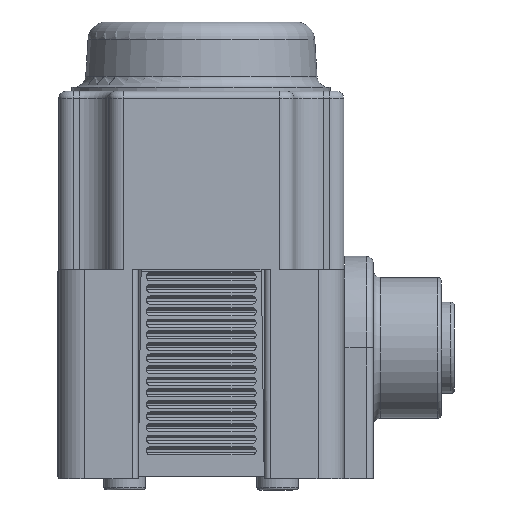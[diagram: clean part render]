
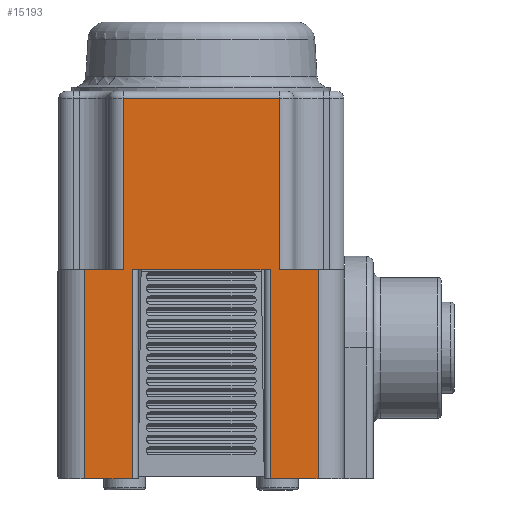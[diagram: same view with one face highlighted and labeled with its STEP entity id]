
A CAD part, left-side view. The second image highlights one B-rep face of the part: STEP entity #15193.
In plain terms, the highlighted planar face has unit normal (-1, 0, 0).
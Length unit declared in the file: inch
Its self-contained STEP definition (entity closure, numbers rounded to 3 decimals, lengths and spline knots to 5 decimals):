
#892=PLANE('',#16743);
#1692=FACE_OUTER_BOUND('',#2611,.T.);
#2611=EDGE_LOOP('',(#13130,#13131,#13132,#13133,#13134,#13135,#13136,#13137,
#13138,#13139,#13140,#13141));
#4355=LINE('',#27649,#5354);
#4368=LINE('',#27719,#5367);
#4484=LINE('',#29282,#5483);
#4501=LINE('',#29341,#5500);
#4502=LINE('',#29345,#5501);
#4505=LINE('',#29364,#5504);
#4518=LINE('',#29440,#5517);
#4519=LINE('',#29444,#5518);
#4520=LINE('',#29445,#5519);
#4521=LINE('',#29447,#5520);
#4522=LINE('',#29449,#5521);
#4523=LINE('',#29450,#5522);
#5354=VECTOR('',#20183,0.3937);
#5367=VECTOR('',#20266,0.3937);
#5483=VECTOR('',#20580,0.3937);
#5500=VECTOR('',#20651,0.3937);
#5501=VECTOR('',#20656,0.3937);
#5504=VECTOR('',#20677,0.3937);
#5517=VECTOR('',#20778,0.3937);
#5518=VECTOR('',#20783,0.3937);
#5519=VECTOR('',#20784,0.3937);
#5520=VECTOR('',#20785,0.3937);
#5521=VECTOR('',#20786,0.3937);
#5522=VECTOR('',#20787,0.3937);
#6722=VERTEX_POINT('',#27641);
#6724=VERTEX_POINT('',#27647);
#6746=VERTEX_POINT('',#27717);
#6876=VERTEX_POINT('',#29279);
#6877=VERTEX_POINT('',#29281);
#6892=VERTEX_POINT('',#29340);
#6893=VERTEX_POINT('',#29344);
#6900=VERTEX_POINT('',#29362);
#6919=VERTEX_POINT('',#29439);
#6920=VERTEX_POINT('',#29443);
#6921=VERTEX_POINT('',#29446);
#6922=VERTEX_POINT('',#29448);
#8708=EDGE_CURVE('',#6724,#6722,#4355,.T.);
#8744=EDGE_CURVE('',#6746,#6724,#4368,.T.);
#8946=EDGE_CURVE('',#6877,#6876,#4484,.T.);
#8975=EDGE_CURVE('',#6892,#6722,#4501,.T.);
#8977=EDGE_CURVE('',#6893,#6892,#4502,.T.);
#8987=EDGE_CURVE('',#6746,#6900,#4505,.T.);
#9025=EDGE_CURVE('',#6919,#6877,#4518,.T.);
#9027=EDGE_CURVE('',#6920,#6900,#4519,.T.);
#9028=EDGE_CURVE('',#6919,#6920,#4520,.T.);
#9029=EDGE_CURVE('',#6921,#6876,#4521,.T.);
#9030=EDGE_CURVE('',#6921,#6922,#4522,.T.);
#9031=EDGE_CURVE('',#6922,#6893,#4523,.T.);
#13130=ORIENTED_EDGE('',*,*,#8708,.F.);
#13131=ORIENTED_EDGE('',*,*,#8744,.F.);
#13132=ORIENTED_EDGE('',*,*,#8987,.T.);
#13133=ORIENTED_EDGE('',*,*,#9027,.F.);
#13134=ORIENTED_EDGE('',*,*,#9028,.F.);
#13135=ORIENTED_EDGE('',*,*,#9025,.T.);
#13136=ORIENTED_EDGE('',*,*,#8946,.T.);
#13137=ORIENTED_EDGE('',*,*,#9029,.F.);
#13138=ORIENTED_EDGE('',*,*,#9030,.T.);
#13139=ORIENTED_EDGE('',*,*,#9031,.T.);
#13140=ORIENTED_EDGE('',*,*,#8977,.T.);
#13141=ORIENTED_EDGE('',*,*,#8975,.T.);
#15193=ADVANCED_FACE('',(#1692),#892,.T.);
#16743=AXIS2_PLACEMENT_3D('',#29442,#20781,#20782);
#20183=DIRECTION('',(0.,-1.,0.));
#20266=DIRECTION('',(0.,0.,1.));
#20580=DIRECTION('',(0.,-1.,0.));
#20651=DIRECTION('',(0.,0.,1.));
#20656=DIRECTION('',(0.,1.,0.));
#20677=DIRECTION('',(0.,1.,0.));
#20778=DIRECTION('',(0.,0.,1.));
#20781=DIRECTION('center_axis',(-1.,0.,0.));
#20782=DIRECTION('ref_axis',(0.,0.,1.));
#20783=DIRECTION('',(0.,0.,1.));
#20784=DIRECTION('',(0.,1.,0.));
#20785=DIRECTION('',(0.,0.,1.));
#20786=DIRECTION('',(0.,-1.,0.));
#20787=DIRECTION('',(0.,0.,1.));
#27641=CARTESIAN_POINT('',(1.00013,-0.78228,0.6733));
#27647=CARTESIAN_POINT('',(1.00013,-0.11428,0.6733));
#27649=CARTESIAN_POINT('',(1.00013,-0.11428,0.6733));
#27717=CARTESIAN_POINT('',(1.00013,-0.11428,-0.0587));
#27719=CARTESIAN_POINT('',(1.00013,-0.11428,-0.0587));
#29279=CARTESIAN_POINT('',(1.00013,-0.74228,-0.0587));
#29281=CARTESIAN_POINT('',(1.00013,-0.15428,-0.0587));
#29282=CARTESIAN_POINT('',(1.00013,-0.15428,-0.0587));
#29340=CARTESIAN_POINT('',(1.00013,-0.78228,-0.0587));
#29341=CARTESIAN_POINT('',(1.00013,-0.78228,-0.0587));
#29344=CARTESIAN_POINT('',(1.00013,-0.94728,-0.0587));
#29345=CARTESIAN_POINT('',(1.00013,-0.94728,-0.0587));
#29362=CARTESIAN_POINT('',(1.00013,0.05072,-0.0587));
#29364=CARTESIAN_POINT('',(1.00013,-0.11428,-0.0587));
#29439=CARTESIAN_POINT('',(1.00013,-0.15428,-0.9527));
#29440=CARTESIAN_POINT('',(1.00013,-0.15428,-0.9527));
#29442=CARTESIAN_POINT('Origin',(1.00013,-0.94768,-0.1397));
#29443=CARTESIAN_POINT('',(1.00013,0.05072,-0.9527));
#29444=CARTESIAN_POINT('',(1.00013,0.05072,-0.9527));
#29445=CARTESIAN_POINT('',(1.00013,-0.15428,-0.9527));
#29446=CARTESIAN_POINT('',(1.00013,-0.74228,-0.9527));
#29447=CARTESIAN_POINT('',(1.00013,-0.74228,-0.9527));
#29448=CARTESIAN_POINT('',(1.00013,-0.94728,-0.9527));
#29449=CARTESIAN_POINT('',(1.00013,-0.74228,-0.9527));
#29450=CARTESIAN_POINT('',(1.00013,-0.94728,-0.9527));
